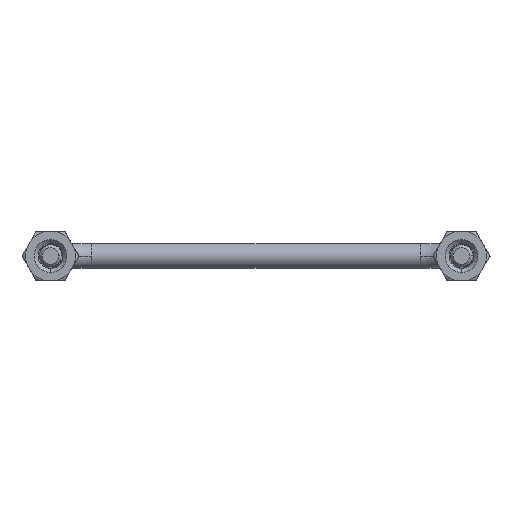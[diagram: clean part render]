
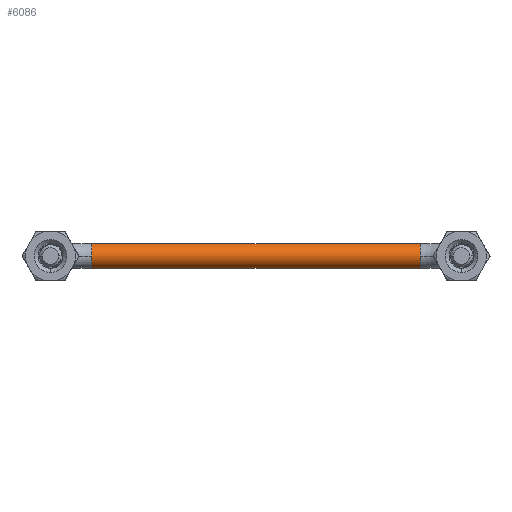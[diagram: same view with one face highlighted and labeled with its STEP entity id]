
A CAD part, front view. The second image highlights one B-rep face of the part: STEP entity #6086.
In plain terms, the highlighted cylindrical face has radius 3 mm (diameter 6 mm), a partial arc.
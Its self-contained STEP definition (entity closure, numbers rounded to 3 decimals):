
#74 = CARTESIAN_POINT ( 'NONE',  ( -40., 33., -3. ) ) ;
#426 = VERTEX_POINT ( 'NONE', #4324 ) ;
#489 = VERTEX_POINT ( 'NONE', #3656 ) ;
#533 = DIRECTION ( 'NONE',  ( -1., 0., 0. ) ) ;
#546 = LINE ( 'NONE', #5930, #9771 ) ;
#987 = AXIS2_PLACEMENT_3D ( 'NONE', #9152, #5986, #9921 ) ;
#1328 = CIRCLE ( 'NONE', #987, 3. ) ;
#1349 = FACE_OUTER_BOUND ( 'NONE', #4762, .T. ) ;
#1363 = ORIENTED_EDGE ( 'NONE', *, *, #10205, .F. ) ;
#1666 = CARTESIAN_POINT ( 'NONE',  ( -40., 33., 0. ) ) ;
#1889 = ORIENTED_EDGE ( 'NONE', *, *, #7994, .T. ) ;
#2069 = VECTOR ( 'NONE', #3607, 1000. ) ;
#2347 = DIRECTION ( 'NONE',  ( 0., 0., 1. ) ) ;
#2642 = CIRCLE ( 'NONE', #8275, 3. ) ;
#2744 = DIRECTION ( 'NONE',  ( 0., 0., -1. ) ) ;
#2836 = VERTEX_POINT ( 'NONE', #9885 ) ;
#2988 = ORIENTED_EDGE ( 'NONE', *, *, #7416, .T. ) ;
#3174 = DIRECTION ( 'NONE',  ( -1., 0., 0. ) ) ;
#3271 = DIRECTION ( 'NONE',  ( 0., 0., 1. ) ) ;
#3530 = AXIS2_PLACEMENT_3D ( 'NONE', #8233, #3686, #2744 ) ;
#3607 = DIRECTION ( 'NONE',  ( 1., 0., 0. ) ) ;
#3656 = CARTESIAN_POINT ( 'NONE',  ( -40., 30., 0. ) ) ;
#3686 = DIRECTION ( 'NONE',  ( 1., 0., 0. ) ) ;
#3712 = LINE ( 'NONE', #7498, #2069 ) ;
#4323 = ORIENTED_EDGE ( 'NONE', *, *, #6265, .T. ) ;
#4324 = CARTESIAN_POINT ( 'NONE',  ( 40., 30., 0. ) ) ;
#4350 = CYLINDRICAL_SURFACE ( 'NONE', #3530, 3. ) ;
#4502 = DIRECTION ( 'NONE',  ( 0., 0., 1. ) ) ;
#4510 = ORIENTED_EDGE ( 'NONE', *, *, #9264, .F. ) ;
#4722 = CARTESIAN_POINT ( 'NONE',  ( 40., 33., -3. ) ) ;
#4762 = EDGE_LOOP ( 'NONE', ( #5252, #4510, #1363, #4323, #2988, #1889 ) ) ;
#5252 = ORIENTED_EDGE ( 'NONE', *, *, #8043, .F. ) ;
#5930 = CARTESIAN_POINT ( 'NONE',  ( -40., 33., 3. ) ) ;
#5986 = DIRECTION ( 'NONE',  ( -1., 0., 0. ) ) ;
#6086 = ADVANCED_FACE ( 'NONE', ( #1349 ), #4350, .T. ) ;
#6148 = AXIS2_PLACEMENT_3D ( 'NONE', #1666, #3174, #3271 ) ;
#6265 = EDGE_CURVE ( 'NONE', #7098, #10182, #3712, .T. ) ;
#7034 = CARTESIAN_POINT ( 'NONE',  ( -40., 33., 3. ) ) ;
#7098 = VERTEX_POINT ( 'NONE', #74 ) ;
#7416 = EDGE_CURVE ( 'NONE', #10182, #426, #2642, .T. ) ;
#7464 = CIRCLE ( 'NONE', #7631, 3. ) ;
#7498 = CARTESIAN_POINT ( 'NONE',  ( -40., 33., -3. ) ) ;
#7539 = DIRECTION ( 'NONE',  ( 1., 0., 0. ) ) ;
#7631 = AXIS2_PLACEMENT_3D ( 'NONE', #7771, #9230, #4502 ) ;
#7771 = CARTESIAN_POINT ( 'NONE',  ( -40., 33., 0. ) ) ;
#7994 = EDGE_CURVE ( 'NONE', #426, #2836, #1328, .T. ) ;
#8043 = EDGE_CURVE ( 'NONE', #9815, #2836, #546, .T. ) ;
#8233 = CARTESIAN_POINT ( 'NONE',  ( -40., 33., 0. ) ) ;
#8275 = AXIS2_PLACEMENT_3D ( 'NONE', #10013, #533, #2347 ) ;
#9152 = CARTESIAN_POINT ( 'NONE',  ( 40., 33., 0. ) ) ;
#9230 = DIRECTION ( 'NONE',  ( -1., 0., 0. ) ) ;
#9264 = EDGE_CURVE ( 'NONE', #489, #9815, #7464, .T. ) ;
#9771 = VECTOR ( 'NONE', #7539, 1000. ) ;
#9815 = VERTEX_POINT ( 'NONE', #7034 ) ;
#9885 = CARTESIAN_POINT ( 'NONE',  ( 40., 33., 3. ) ) ;
#9921 = DIRECTION ( 'NONE',  ( 0., 0., 1. ) ) ;
#10013 = CARTESIAN_POINT ( 'NONE',  ( 40., 33., 0. ) ) ;
#10126 = CIRCLE ( 'NONE', #6148, 3. ) ;
#10182 = VERTEX_POINT ( 'NONE', #4722 ) ;
#10205 = EDGE_CURVE ( 'NONE', #7098, #489, #10126, .T. ) ;
